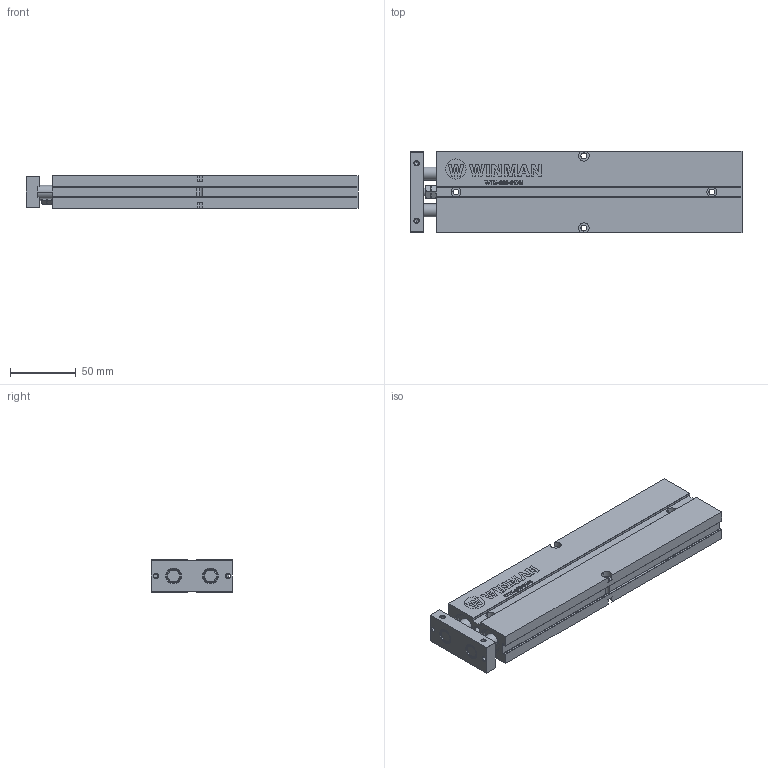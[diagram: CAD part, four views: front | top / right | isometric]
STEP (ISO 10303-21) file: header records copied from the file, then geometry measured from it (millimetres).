
FILE_DESCRIPTION (( 'STEP AP214' ), '1' );
FILE_NAME ('WTN-020-0175 (3D).STEP', '2019-10-30T10:03:34', ( '' ), ( '' ), 'SwSTEP 2.0', 'SolidWorks 2016', '' );
FILE_SCHEMA (( 'AUTOMOTIVE_DESIGN' ));
Length unit declared in the file: millimetre
Products named in the file (3): WTN-020-0175 (3D); WTN-020-0175-b; WTN-020-0175-fp
Assembly tree (2 placements, depth 2):
  WTN-020-0175 (3D)
    WTN-020-0175-b
    WTN-020-0175-fp
Bounding box: 253 x 62 x 25 mm (x, y, z)
Volume: 271811.3 mm3; surface area: 102582.3 mm2
Topology: 2 solids, 2 shells, 501 faces, 1277 edges, 822 vertices
Faces by surface type: plane 264, cylinder 114, cone 66, bspline 57
Entity records: 21409 total; most frequent: CARTESIAN_POINT 6230, ORIENTED_EDGE 2538, DIRECTION 2291, EDGE_CURVE 1269, VERTEX_POINT 822, LINE 797, VECTOR 797, AXIS2_PLACEMENT_3D 747
